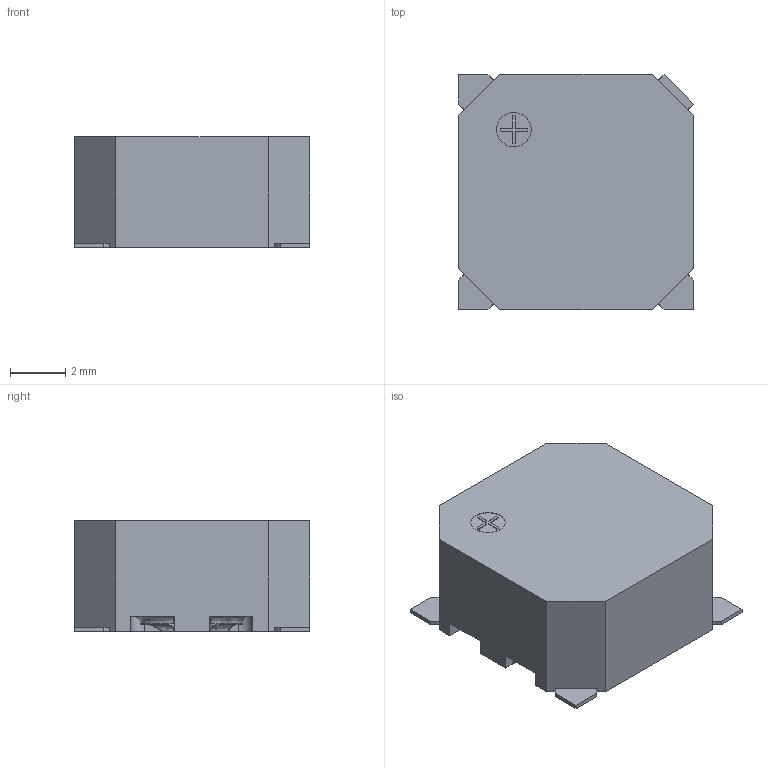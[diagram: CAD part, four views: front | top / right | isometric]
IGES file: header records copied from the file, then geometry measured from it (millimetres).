
Global section: file name: No Iges File Name specified; native system: Autodesk Inventor 2011; preprocessor: AutoDesk Inventor Iges Exporter R2011; author: Dunn; date: 20120111.090124; units: millimetre
Bounding box: 8.5 x 8.5 x 4 mm (x, y, z)
Volume: 183.7 mm3; surface area: 497.7 mm2
Topology: 1 solids, 1 shells, 201 faces, 554 edges, 360 vertices
Faces by surface type: plane 142, revolution 26, cylinder 17, bspline 16
